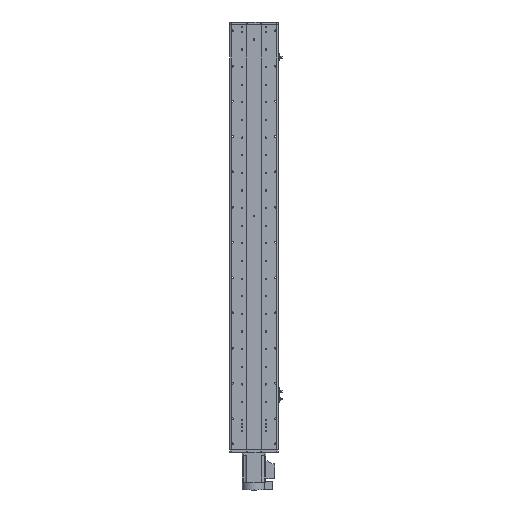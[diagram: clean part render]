
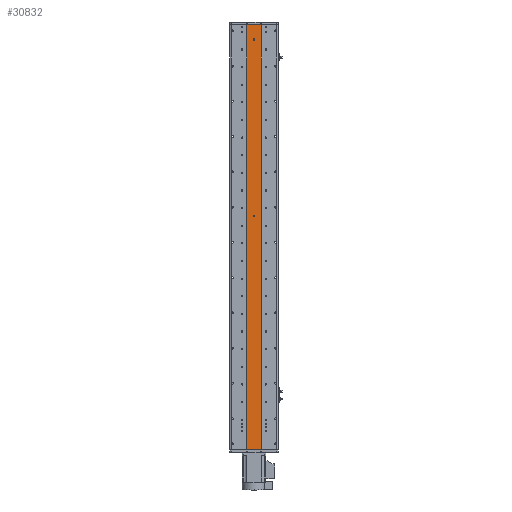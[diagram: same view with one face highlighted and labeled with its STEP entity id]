
A CAD part, front view. The second image highlights one B-rep face of the part: STEP entity #30832.
In plain terms, the highlighted planar face has unit normal (0, -1, 0).
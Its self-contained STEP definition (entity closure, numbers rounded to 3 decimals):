
#751 = VERTEX_POINT ( 'NONE', #19693 ) ;
#999 = VECTOR ( 'NONE', #32787, 1000. ) ;
#1846 = CARTESIAN_POINT ( 'NONE',  ( 25., 1., -723. ) ) ;
#1859 = EDGE_CURVE ( 'NONE', #21513, #751, #14339, .T. ) ;
#2978 = EDGE_LOOP ( 'NONE', ( #18469, #7265 ) ) ;
#3834 = CIRCLE ( 'NONE', #33592, 3. ) ;
#4434 = ORIENTED_EDGE ( 'NONE', *, *, #42109, .F. ) ;
#4686 = DIRECTION ( 'NONE',  ( 0., -1., 0. ) ) ;
#4827 = FACE_OUTER_BOUND ( 'NONE', #35109, .T. ) ;
#5404 = DIRECTION ( 'NONE',  ( 0., -1., 0. ) ) ;
#6022 = VERTEX_POINT ( 'NONE', #27209 ) ;
#6641 = CARTESIAN_POINT ( 'NONE',  ( 0., 1., 73. ) ) ;
#7265 = ORIENTED_EDGE ( 'NONE', *, *, #1859, .F. ) ;
#7404 = VERTEX_POINT ( 'NONE', #9159 ) ;
#7518 = CARTESIAN_POINT ( 'NONE',  ( 0., 1., 76. ) ) ;
#8408 = ORIENTED_EDGE ( 'NONE', *, *, #30035, .F. ) ;
#9159 = CARTESIAN_POINT ( 'NONE',  ( -25., 1., 723. ) ) ;
#9966 = DIRECTION ( 'NONE',  ( 0., 0., -1. ) ) ;
#11052 = CIRCLE ( 'NONE', #26121, 3. ) ;
#11307 = CIRCLE ( 'NONE', #13793, 3. ) ;
#12204 = PLANE ( 'NONE',  #18761 ) ;
#12368 = EDGE_CURVE ( 'NONE', #7404, #27191, #13743, .T. ) ;
#13558 = CARTESIAN_POINT ( 'NONE',  ( 25., 1., 723. ) ) ;
#13743 = LINE ( 'NONE', #35038, #30288 ) ;
#13793 = AXIS2_PLACEMENT_3D ( 'NONE', #24466, #4686, #27817 ) ;
#14152 = ORIENTED_EDGE ( 'NONE', *, *, #27885, .F. ) ;
#14339 = CIRCLE ( 'NONE', #32989, 3. ) ;
#14762 = ORIENTED_EDGE ( 'NONE', *, *, #41791, .F. ) ;
#15406 = CARTESIAN_POINT ( 'NONE',  ( 25., 1., -723. ) ) ;
#16780 = CARTESIAN_POINT ( 'NONE',  ( 0., 1., 673. ) ) ;
#17340 = VECTOR ( 'NONE', #36660, 1000. ) ;
#18469 = ORIENTED_EDGE ( 'NONE', *, *, #38239, .F. ) ;
#18700 = DIRECTION ( 'NONE',  ( 1., 0., 0. ) ) ;
#18761 = AXIS2_PLACEMENT_3D ( 'NONE', #28664, #38468, #35312 ) ;
#19693 = CARTESIAN_POINT ( 'NONE',  ( 0., 1., 70. ) ) ;
#20098 = DIRECTION ( 'NONE',  ( 0., 0., -1. ) ) ;
#20224 = CARTESIAN_POINT ( 'NONE',  ( 25., 1., 723. ) ) ;
#21346 = FACE_BOUND ( 'NONE', #2978, .T. ) ;
#21513 = VERTEX_POINT ( 'NONE', #7518 ) ;
#24459 = FACE_BOUND ( 'NONE', #27652, .T. ) ;
#24466 = CARTESIAN_POINT ( 'NONE',  ( 0., 1., 73. ) ) ;
#25186 = CARTESIAN_POINT ( 'NONE',  ( 0., 1., 673. ) ) ;
#26121 = AXIS2_PLACEMENT_3D ( 'NONE', #16780, #39899, #20098 ) ;
#26786 = EDGE_CURVE ( 'NONE', #27191, #41110, #36795, .T. ) ;
#27191 = VERTEX_POINT ( 'NONE', #27488 ) ;
#27209 = CARTESIAN_POINT ( 'NONE',  ( 0., 1., 670. ) ) ;
#27488 = CARTESIAN_POINT ( 'NONE',  ( -25., 1., -723. ) ) ;
#27652 = EDGE_LOOP ( 'NONE', ( #4434, #14762 ) ) ;
#27714 = VERTEX_POINT ( 'NONE', #28497 ) ;
#27817 = DIRECTION ( 'NONE',  ( 0., 0., -1. ) ) ;
#27885 = EDGE_CURVE ( 'NONE', #7404, #27956, #29442, .T. ) ;
#27956 = VERTEX_POINT ( 'NONE', #41177 ) ;
#28497 = CARTESIAN_POINT ( 'NONE',  ( 0., 1., 676. ) ) ;
#28529 = DIRECTION ( 'NONE',  ( 0., 0., -1. ) ) ;
#28664 = CARTESIAN_POINT ( 'NONE',  ( 25., 1., 723. ) ) ;
#29442 = LINE ( 'NONE', #20224, #999 ) ;
#29764 = DIRECTION ( 'NONE',  ( 0., -1., 0. ) ) ;
#30035 = EDGE_CURVE ( 'NONE', #27956, #41110, #42658, .T. ) ;
#30288 = VECTOR ( 'NONE', #41681, 1000. ) ;
#30832 = ADVANCED_FACE ( 'NONE', ( #24459, #21346, #4827 ), #12204, .F. ) ;
#32787 = DIRECTION ( 'NONE',  ( 1., 0., 0. ) ) ;
#32989 = AXIS2_PLACEMENT_3D ( 'NONE', #6641, #29764, #9966 ) ;
#33592 = AXIS2_PLACEMENT_3D ( 'NONE', #25186, #5404, #28529 ) ;
#35038 = CARTESIAN_POINT ( 'NONE',  ( -25., 1., 723. ) ) ;
#35109 = EDGE_LOOP ( 'NONE', ( #36234, #8408, #14152, #35202 ) ) ;
#35202 = ORIENTED_EDGE ( 'NONE', *, *, #12368, .T. ) ;
#35312 = DIRECTION ( 'NONE',  ( 0., 0., 1. ) ) ;
#36234 = ORIENTED_EDGE ( 'NONE', *, *, #26786, .T. ) ;
#36660 = DIRECTION ( 'NONE',  ( 0., 0., -1. ) ) ;
#36795 = LINE ( 'NONE', #15406, #37815 ) ;
#37815 = VECTOR ( 'NONE', #18700, 1000. ) ;
#38239 = EDGE_CURVE ( 'NONE', #751, #21513, #11307, .T. ) ;
#38468 = DIRECTION ( 'NONE',  ( 0., 1., 0. ) ) ;
#39899 = DIRECTION ( 'NONE',  ( 0., -1., 0. ) ) ;
#41110 = VERTEX_POINT ( 'NONE', #1846 ) ;
#41177 = CARTESIAN_POINT ( 'NONE',  ( 25., 1., 723. ) ) ;
#41681 = DIRECTION ( 'NONE',  ( 0., 0., -1. ) ) ;
#41791 = EDGE_CURVE ( 'NONE', #27714, #6022, #3834, .T. ) ;
#42109 = EDGE_CURVE ( 'NONE', #6022, #27714, #11052, .T. ) ;
#42658 = LINE ( 'NONE', #13558, #17340 ) ;
